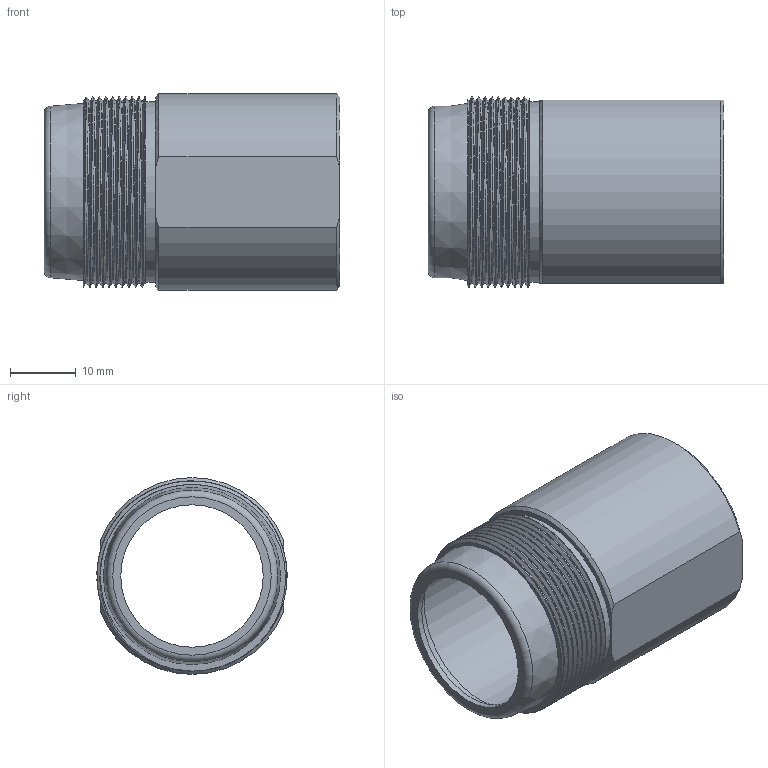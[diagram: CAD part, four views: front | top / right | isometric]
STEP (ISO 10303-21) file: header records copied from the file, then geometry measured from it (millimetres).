
FILE_DESCRIPTION (( 'STEP AP203' ), '1' );
FILE_NAME ('SH.IR1.A-»¤Ì×P-20250519.STEP', '2025-05-21T06:31:05', ( '' ), ( '' ), 'SwSTEP 2.0', 'SolidWorks 2023', '' );
FILE_SCHEMA (( 'CONFIG_CONTROL_DESIGN' ));
Length unit declared in the file: millimetre
Products named in the file (1): SH.IR1.A-护套P-20250519
Bounding box: 45.1 x 28.99 x 30 mm (x, y, z)
Volume: 6842.9 mm3; surface area: 9829.7 mm2
Topology: 1 solids, 1 shells, 34 faces, 72 edges, 48 vertices
Faces by surface type: plane 12, cylinder 10, bspline 6, cone 5, torus 1
Full cylindrical faces by diameter (mm): 21.72 x1, 24.3 x1, 25.1 x1, 26.5 x1, 27 x1, 27.5 x1
Entity records: 6079 total; most frequent: CARTESIAN_POINT 5357, ORIENTED_EDGE 126, DIRECTION 120, EDGE_CURVE 63, AXIS2_PLACEMENT_3D 56, EDGE_LOOP 52, VERTEX_POINT 47, FACE_OUTER_BOUND 41
